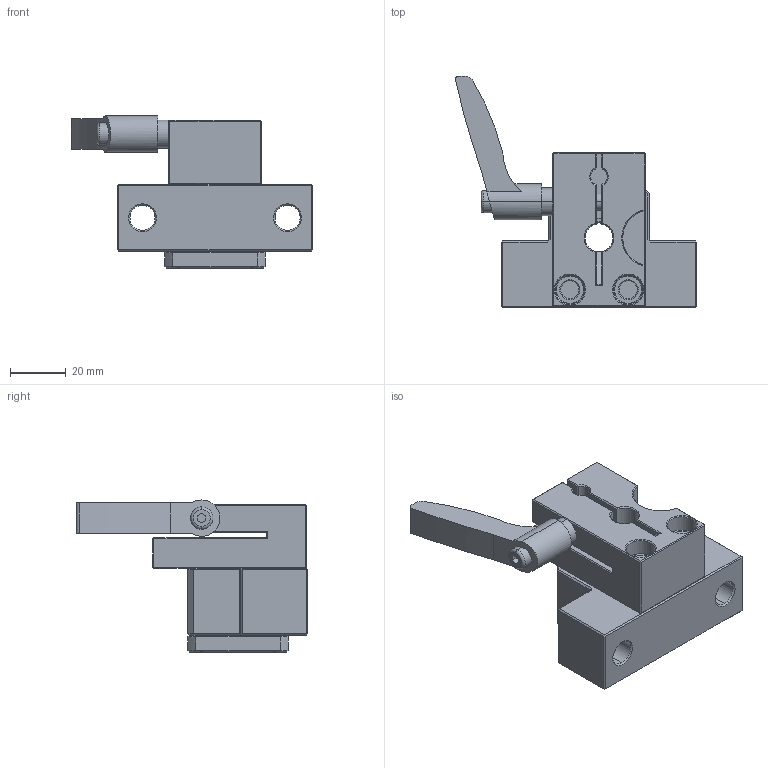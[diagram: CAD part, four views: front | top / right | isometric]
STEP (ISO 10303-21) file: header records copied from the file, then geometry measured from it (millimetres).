
FILE_DESCRIPTION (( 'STEP AP214' ), '1' );
FILE_NAME ('12.STEP', '2025-04-16T05:48:31', ( '' ), ( '' ), 'SwSTEP 2.0', 'SolidWorks 2025', '' );
FILE_SCHEMA (( 'AUTOMOTIVE_DESIGN' ));
Length unit declared in the file: millimetre
Products named in the file (10): EK12; Socket Set Screw Flat Point_AM_B18.3.6M - M4 x 0.7 x 5 Hex Socket Flat Pt. SS --N_B18.3.6M - M4 x 0.7 x 5 Hex Socket Flat Pt. SS --N.STEP; SET PIECE___3.1x1_____ _____1.STEP; 12번 인디게이터클램프; CLDM6-32-M_1; RN12.STEP; 12; CLDM6-32-M; CLDM6-32-M_2; RN12_NUT_____ ____.STEP
Assembly tree (9 placements, depth 3):
  12
    12번 인디게이터클램프
    EK12
    RN12.STEP
      Socket Set Screw Flat Point_AM_B18.3.6M - M4 x 0.7 x 5 Hex Socket Flat Pt. SS --N_B18.3.6M - M4 x 0.7 x 5 Hex Socket Flat Pt. SS --N.STEP
      SET PIECE___3.1x1_____ _____1.STEP
      RN12_NUT_____ ____.STEP
    CLDM6-32-M
      CLDM6-32-M_1
      CLDM6-32-M_2
Bounding box: 86.5 x 83 x 54.5 mm (x, y, z)
Volume: 91156.6 mm3; surface area: 40120.5 mm2
Topology: 37 solids, 41 shells, 682 faces, 1591 edges, 908 vertices
Faces by surface type: plane 289, cone 156, cylinder 153, bspline 74, torus 10
Entity records: 20945 total; most frequent: CARTESIAN_POINT 5422, DIRECTION 3244, ORIENTED_EDGE 2966, EDGE_CURVE 1483, AXIS2_PLACEMENT_3D 1247, VERTEX_POINT 906, VECTOR 750, LINE 750
